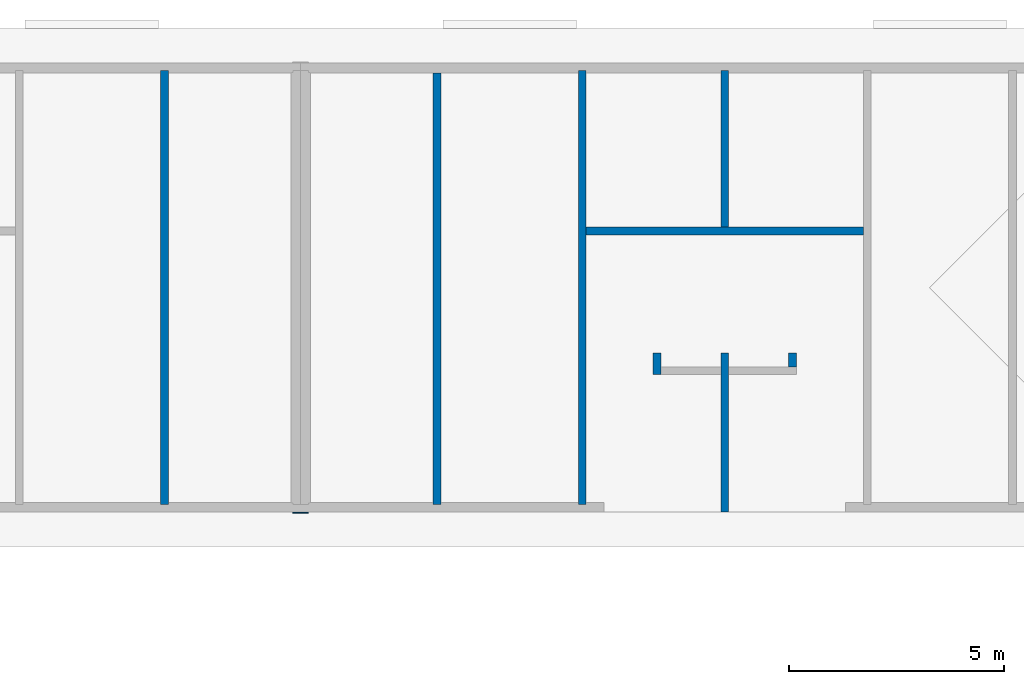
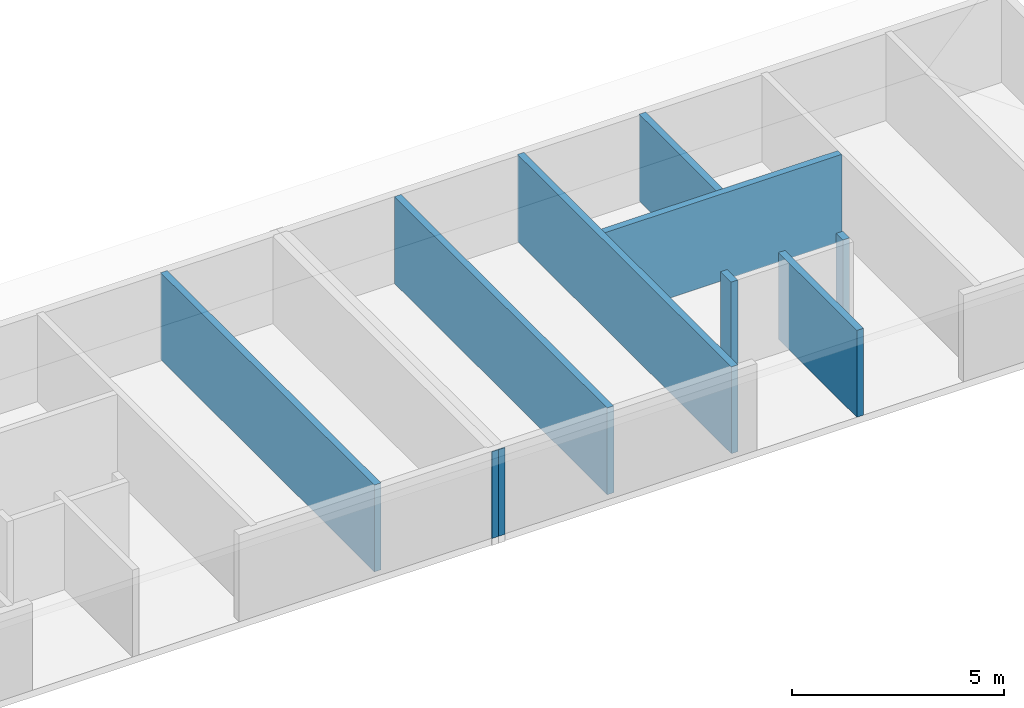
# One storey, part 2 of 10: 10 walls.
"""IFC2X3 building model written with IfcOpenShell, lengths in metres."""

from ifc_helpers import new_model, si_unit, frame, frame_2d, origin, origin_with_axes, place, context, project, spatial, rectangle, extrude, element, save


model = new_model("IFC2X3")

# Units and contexts
model_context = context("Model", 3, precision=1e-06, world=origin())
ifc_project = project(units=[si_unit("LENGTHUNIT", "METRE"), si_unit("PLANEANGLEUNIT", "RADIAN")], contexts=[model_context])

# Site, building, storey
site = spatial("IfcSite", under=ifc_project, CompositionType="ELEMENT")
building = spatial("IfcBuilding", under=site, CompositionType="ELEMENT")
storey = spatial("IfcBuildingStorey", under=building, Name="r+3", CompositionType="ELEMENT", Elevation=8.1)

# Walls
placement = place(None, origin())
wall_1_placement = place(placement, frame((31.19999951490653, 3.720077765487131, 8.1), z_axis=(0.0, 0.0, 1.0), x_axis=(0.0, -1.0, 0.0)))
element("IfcWall", 1, at=wall_1_placement, inside=storey, context=model_context, shape_type="SweptSolid", body=[
    extrude(rectangle(XDim=0.32, YDim=0.18, at=frame_2d((0.16, 0.09), x_axis=(1.0, 0.0)), kind="CURVE"), origin_with_axes(), (0.0, 0.0, 1.0), 2.5),
])
wall_2_placement = place(placement, frame((19.849999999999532, 2e-15, 8.1), z_axis=(0.0, 0.0, 1.0), x_axis=(-1.0, 0.0, 0.0)))
element("IfcWall", 2, at=wall_2_placement, inside=storey, context=model_context, shape_type="SweptSolid", body=[
    extrude(rectangle(XDim=0.18, YDim=0.020162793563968, at=frame_2d((0.09, 0.010081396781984), x_axis=(1.0, 0.0)), kind="CURVE"), frame((0.0, -0.020162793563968, 0.0), z_axis=(0.0, 0.0, 1.0), x_axis=(1.0, 0.0, 0.0)), (0.0, 0.0, 1.0), 2.5),
])
wall_3_placement = place(placement, frame((29.80499999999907, 0.020038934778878, 8.1), z_axis=(0.0, 0.0, 1.0), x_axis=(0.0, 1.0, 0.0)))
element("IfcWall", 3, at=wall_3_placement, inside=storey, context=model_context, shape_type="SweptSolid", body=[
    extrude(rectangle(XDim=3.700038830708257, YDim=0.18, at=frame_2d((1.850019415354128, 0.09), x_axis=(1.0, 0.0)), kind="CURVE"), origin_with_axes(), (0.0, 0.0, 1.0), 2.5),
])
wall_4_placement = place(placement, frame((16.77000000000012, 0.200077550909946, 8.1), z_axis=(0.0, 0.0, 1.0), x_axis=(0.0, 1.0, 0.0)))
element("IfcWall", 4, at=wall_4_placement, inside=storey, context=model_context, shape_type="SweptSolid", body=[
    extrude(rectangle(XDim=10.090000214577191, YDim=0.18, at=frame_2d((5.045000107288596, 0.09), x_axis=(1.0, 0.0)), kind="CURVE"), origin_with_axes(), (0.0, 0.0, 1.0), 2.5),
])
wall_5_placement = place(placement, frame((29.80499999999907, 6.650077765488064, 8.1), z_axis=(0.0, 0.0, 1.0), x_axis=(0.0, 1.0, 0.0)))
element("IfcWall", 5, at=wall_5_placement, inside=storey, context=model_context, shape_type="SweptSolid", body=[
    extrude(rectangle(XDim=3.639999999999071, YDim=0.18, at=frame_2d((1.819999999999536, 0.09), x_axis=(1.0, 0.0)), kind="CURVE"), origin_with_axes(), (0.0, 0.0, 1.0), 2.5),
])
wall_6_placement = place(placement, frame((32.939999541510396, 6.650077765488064, 8.1), z_axis=(0.0, 0.0, 1.0), x_axis=(-1.0, 0.0, 0.0)))
element("IfcWall", 6, at=wall_6_placement, inside=storey, context=model_context, shape_type="SweptSolid", body=[
    extrude(rectangle(XDim=6.449999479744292, YDim=0.18, at=frame_2d((3.224999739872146, 0.09), x_axis=(1.0, 0.0)), kind="CURVE"), origin_with_axes(), (0.0, 0.0, 1.0), 2.5),
])
wall_7_placement = place(placement, frame((20.029999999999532, 2e-15, 8.1), z_axis=(0.0, 0.0, 1.0), x_axis=(-1.0, 0.0, 0.0)))
element("IfcWall", 7, at=wall_7_placement, inside=storey, context=model_context, shape_type="SweptSolid", body=[
    extrude(rectangle(XDim=0.18, YDim=0.020162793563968, at=frame_2d((0.09, 0.010081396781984), x_axis=(1.0, 0.0)), kind="CURVE"), frame((0.0, -0.020162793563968, 0.0), z_axis=(0.0, 0.0, 1.0), x_axis=(1.0, 0.0, 0.0)), (0.0, 0.0, 1.0), 2.5),
])
wall_8_placement = place(placement, frame((23.10999999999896, 0.200077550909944, 8.1), z_axis=(0.0, 0.0, 1.0), x_axis=(0.0, 1.0, 0.0)))
element("IfcWall", 8, at=wall_8_placement, inside=storey, context=model_context, shape_type="SweptSolid", body=[
    extrude(rectangle(XDim=10.04000021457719, YDim=0.18, at=frame_2d((5.020000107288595, 0.09), x_axis=(1.0, 0.0)), kind="CURVE"), origin_with_axes(), (0.0, 0.0, 1.0), 2.5),
])
wall_9_placement = place(placement, frame((28.22999951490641, 3.220077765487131, 8.1), z_axis=(0.0, 0.0, 1.0), x_axis=(0.0, 1.0, 0.0)))
element("IfcWall", 9, at=wall_9_placement, inside=storey, context=model_context, shape_type="SweptSolid", body=[
    extrude(rectangle(XDim=0.5, YDim=0.18, at=frame_2d((0.25, 0.09), x_axis=(1.0, 0.0)), kind="CURVE"), origin_with_axes(), (0.0, 0.0, 1.0), 2.5),
])
wall_10_placement = place(placement, frame((26.49000006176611, 0.200077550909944, 8.1), z_axis=(0.0, 0.0, 1.0), x_axis=(0.0, 1.0, 0.0)))
element("IfcWall", 10, at=wall_10_placement, inside=storey, context=model_context, shape_type="SweptSolid", body=[
    extrude(rectangle(XDim=10.090000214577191, YDim=0.18, at=frame_2d((5.045000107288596, 0.09), x_axis=(1.0, 0.0)), kind="CURVE"), origin_with_axes(), (0.0, 0.0, 1.0), 2.5),
])

save(model, "model.ifc")
